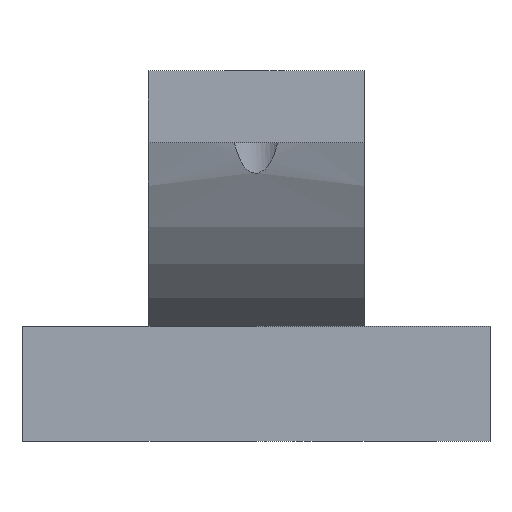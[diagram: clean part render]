
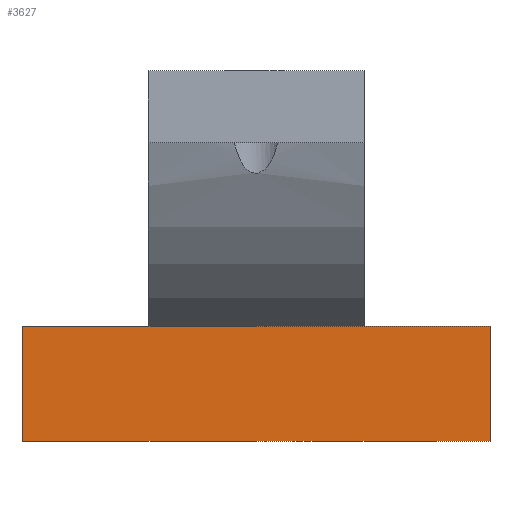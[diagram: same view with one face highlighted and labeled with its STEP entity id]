
A CAD part, front view. The second image highlights one B-rep face of the part: STEP entity #3627.
In plain terms, the highlighted planar face has unit normal (0, -1, 0).
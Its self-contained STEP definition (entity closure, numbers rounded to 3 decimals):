
#555 = PLANE('',#556);
#556 = AXIS2_PLACEMENT_3D('',#557,#558,#559);
#557 = CARTESIAN_POINT('',(9.,-111.432,11.2));
#558 = DIRECTION('',(0.,0.,1.));
#559 = DIRECTION('',(1.,0.,-0.));
#995 = PLANE('',#996);
#996 = AXIS2_PLACEMENT_3D('',#997,#998,#999);
#997 = CARTESIAN_POINT('',(9.,-111.432,4.8));
#998 = DIRECTION('',(0.,0.,1.));
#999 = DIRECTION('',(1.,0.,-0.));
#1804 = VERTEX_POINT('',#1805);
#1805 = CARTESIAN_POINT('',(9.,-111.432,11.2));
#1821 = PLANE('',#1822);
#1822 = AXIS2_PLACEMENT_3D('',#1823,#1824,#1825);
#1823 = CARTESIAN_POINT('',(9.,-111.432,4.8));
#1824 = DIRECTION('',(1.,0.,0.));
#1825 = DIRECTION('',(0.,0.,1.));
#1833 = EDGE_CURVE('',#1804,#1834,#1836,.T.);
#1834 = VERTEX_POINT('',#1835);
#1835 = CARTESIAN_POINT('',(35.,-111.432,11.2));
#1836 = SURFACE_CURVE('',#1837,(#1841,#1848),.PCURVE_S1.);
#1837 = LINE('',#1838,#1839);
#1838 = CARTESIAN_POINT('',(9.,-111.432,11.2));
#1839 = VECTOR('',#1840,1.);
#1840 = DIRECTION('',(1.,0.,0.));
#1841 = PCURVE('',#555,#1842);
#1842 = DEFINITIONAL_REPRESENTATION('',(#1843),#1847);
#1843 = LINE('',#1844,#1845);
#1844 = CARTESIAN_POINT('',(0.,0.));
#1845 = VECTOR('',#1846,1.);
#1846 = DIRECTION('',(1.,0.));
#1847 = ( GEOMETRIC_REPRESENTATION_CONTEXT(2) 
PARAMETRIC_REPRESENTATION_CONTEXT() REPRESENTATION_CONTEXT('2D SPACE',''
  ) );
#1848 = PCURVE('',#1849,#1854);
#1849 = PLANE('',#1850);
#1850 = AXIS2_PLACEMENT_3D('',#1851,#1852,#1853);
#1851 = CARTESIAN_POINT('',(9.,-111.432,4.8));
#1852 = DIRECTION('',(0.,1.,0.));
#1853 = DIRECTION('',(0.,-0.,1.));
#1854 = DEFINITIONAL_REPRESENTATION('',(#1855),#1859);
#1855 = LINE('',#1856,#1857);
#1856 = CARTESIAN_POINT('',(6.4,0.));
#1857 = VECTOR('',#1858,1.);
#1858 = DIRECTION('',(0.,1.));
#1859 = ( GEOMETRIC_REPRESENTATION_CONTEXT(2) 
PARAMETRIC_REPRESENTATION_CONTEXT() REPRESENTATION_CONTEXT('2D SPACE',''
  ) );
#1877 = PLANE('',#1878);
#1878 = AXIS2_PLACEMENT_3D('',#1879,#1880,#1881);
#1879 = CARTESIAN_POINT('',(35.,-111.432,4.8));
#1880 = DIRECTION('',(1.,0.,0.));
#1881 = DIRECTION('',(0.,0.,1.));
#2817 = VERTEX_POINT('',#2818);
#2818 = CARTESIAN_POINT('',(9.,-111.432,4.8));
#2841 = EDGE_CURVE('',#2817,#2842,#2844,.T.);
#2842 = VERTEX_POINT('',#2843);
#2843 = CARTESIAN_POINT('',(35.,-111.432,4.8));
#2844 = SURFACE_CURVE('',#2845,(#2849,#2856),.PCURVE_S1.);
#2845 = LINE('',#2846,#2847);
#2846 = CARTESIAN_POINT('',(9.,-111.432,4.8));
#2847 = VECTOR('',#2848,1.);
#2848 = DIRECTION('',(1.,0.,0.));
#2849 = PCURVE('',#995,#2850);
#2850 = DEFINITIONAL_REPRESENTATION('',(#2851),#2855);
#2851 = LINE('',#2852,#2853);
#2852 = CARTESIAN_POINT('',(0.,0.));
#2853 = VECTOR('',#2854,1.);
#2854 = DIRECTION('',(1.,0.));
#2855 = ( GEOMETRIC_REPRESENTATION_CONTEXT(2) 
PARAMETRIC_REPRESENTATION_CONTEXT() REPRESENTATION_CONTEXT('2D SPACE',''
  ) );
#2856 = PCURVE('',#1849,#2857);
#2857 = DEFINITIONAL_REPRESENTATION('',(#2858),#2862);
#2858 = LINE('',#2859,#2860);
#2859 = CARTESIAN_POINT('',(0.,0.));
#2860 = VECTOR('',#2861,1.);
#2861 = DIRECTION('',(0.,1.));
#2862 = ( GEOMETRIC_REPRESENTATION_CONTEXT(2) 
PARAMETRIC_REPRESENTATION_CONTEXT() REPRESENTATION_CONTEXT('2D SPACE',''
  ) );
#3370 = EDGE_CURVE('',#2817,#1804,#3371,.T.);
#3371 = SURFACE_CURVE('',#3372,(#3376,#3383),.PCURVE_S1.);
#3372 = LINE('',#3373,#3374);
#3373 = CARTESIAN_POINT('',(9.,-111.432,4.8));
#3374 = VECTOR('',#3375,1.);
#3375 = DIRECTION('',(0.,0.,1.));
#3376 = PCURVE('',#1821,#3377);
#3377 = DEFINITIONAL_REPRESENTATION('',(#3378),#3382);
#3378 = LINE('',#3379,#3380);
#3379 = CARTESIAN_POINT('',(0.,0.));
#3380 = VECTOR('',#3381,1.);
#3381 = DIRECTION('',(1.,0.));
#3382 = ( GEOMETRIC_REPRESENTATION_CONTEXT(2) 
PARAMETRIC_REPRESENTATION_CONTEXT() REPRESENTATION_CONTEXT('2D SPACE',''
  ) );
#3383 = PCURVE('',#1849,#3384);
#3384 = DEFINITIONAL_REPRESENTATION('',(#3385),#3389);
#3385 = LINE('',#3386,#3387);
#3386 = CARTESIAN_POINT('',(0.,0.));
#3387 = VECTOR('',#3388,1.);
#3388 = DIRECTION('',(1.,0.));
#3389 = ( GEOMETRIC_REPRESENTATION_CONTEXT(2) 
PARAMETRIC_REPRESENTATION_CONTEXT() REPRESENTATION_CONTEXT('2D SPACE',''
  ) );
#3604 = EDGE_CURVE('',#2842,#1834,#3605,.T.);
#3605 = SURFACE_CURVE('',#3606,(#3610,#3617),.PCURVE_S1.);
#3606 = LINE('',#3607,#3608);
#3607 = CARTESIAN_POINT('',(35.,-111.432,4.8));
#3608 = VECTOR('',#3609,1.);
#3609 = DIRECTION('',(0.,0.,1.));
#3610 = PCURVE('',#1877,#3611);
#3611 = DEFINITIONAL_REPRESENTATION('',(#3612),#3616);
#3612 = LINE('',#3613,#3614);
#3613 = CARTESIAN_POINT('',(0.,0.));
#3614 = VECTOR('',#3615,1.);
#3615 = DIRECTION('',(1.,0.));
#3616 = ( GEOMETRIC_REPRESENTATION_CONTEXT(2) 
PARAMETRIC_REPRESENTATION_CONTEXT() REPRESENTATION_CONTEXT('2D SPACE',''
  ) );
#3617 = PCURVE('',#1849,#3618);
#3618 = DEFINITIONAL_REPRESENTATION('',(#3619),#3623);
#3619 = LINE('',#3620,#3621);
#3620 = CARTESIAN_POINT('',(0.,26.));
#3621 = VECTOR('',#3622,1.);
#3622 = DIRECTION('',(1.,0.));
#3623 = ( GEOMETRIC_REPRESENTATION_CONTEXT(2) 
PARAMETRIC_REPRESENTATION_CONTEXT() REPRESENTATION_CONTEXT('2D SPACE',''
  ) );
#3627 = ADVANCED_FACE('',(#3628),#1849,.F.);
#3628 = FACE_BOUND('',#3629,.F.);
#3629 = EDGE_LOOP('',(#3630,#3631,#3632,#3633));
#3630 = ORIENTED_EDGE('',*,*,#2841,.F.);
#3631 = ORIENTED_EDGE('',*,*,#3370,.T.);
#3632 = ORIENTED_EDGE('',*,*,#1833,.T.);
#3633 = ORIENTED_EDGE('',*,*,#3604,.F.);
